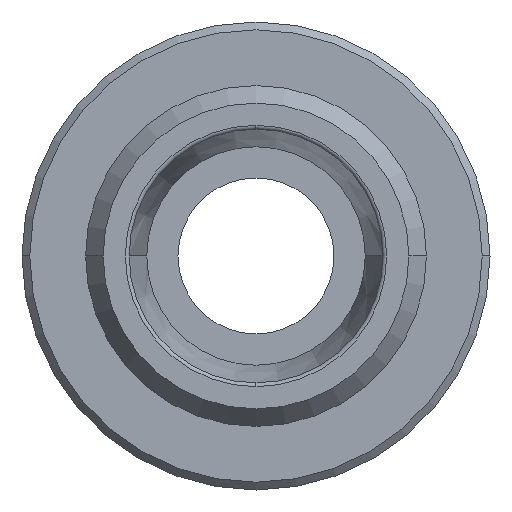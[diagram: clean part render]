
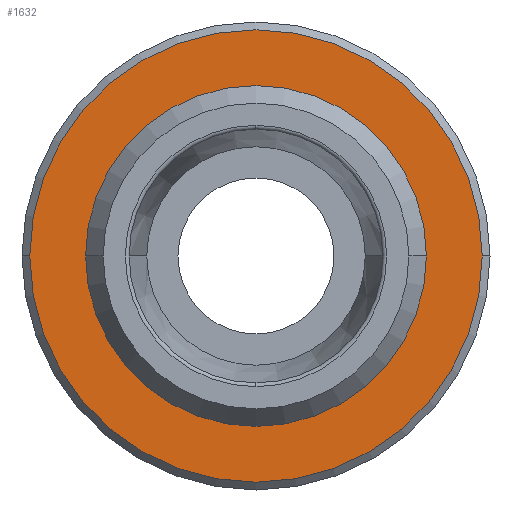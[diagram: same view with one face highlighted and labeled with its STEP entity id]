
A CAD part, left-side view. The second image highlights one B-rep face of the part: STEP entity #1632.
In plain terms, the highlighted planar face has unit normal (-1, 0, 0) as drawn and (0, 0, 1) by its records, which use the part's own axes.
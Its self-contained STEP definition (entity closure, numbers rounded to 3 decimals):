
#141=CARTESIAN_POINT('',(-14.5,0.,35.0));
#142=VERTEX_POINT('',#141);
#151=CARTESIAN_POINT('',(14.5,0.0,35.0));
#152=VERTEX_POINT('',#151);
#153=CARTESIAN_POINT('',(0.0,0.0,35.0));
#154=DIRECTION('',(0.0,0.0,-1.0));
#155=DIRECTION('',(-1.0,0.0,0.0));
#156=AXIS2_PLACEMENT_3D('',#153,#154,#155);
#157=CIRCLE('',#156,14.5);
#158=EDGE_CURVE('',#142,#152,#157,.T.);
#836=CARTESIAN_POINT('',(0.,-10.8,35.0));
#837=VERTEX_POINT('',#836);
#863=CARTESIAN_POINT('',(0.,10.8,35.0));
#864=VERTEX_POINT('',#863);
#872=CARTESIAN_POINT('',(0.,0.,35.0));
#873=DIRECTION('',(0.0,0.0,1.0));
#874=DIRECTION('',(-1.0,0.0,0.0));
#875=AXIS2_PLACEMENT_3D('',#872,#873,#874);
#876=CIRCLE('',#875,10.8);
#877=EDGE_CURVE('',#864,#837,#876,.T.);
#1558=CARTESIAN_POINT('',(10.8,0.,35.));
#1559=VERTEX_POINT('',#1558);
#1560=CARTESIAN_POINT('',(0.,0.,35.0));
#1561=DIRECTION('',(0.0,0.0,1.0));
#1562=DIRECTION('',(-1.0,0.0,0.0));
#1563=AXIS2_PLACEMENT_3D('',#1560,#1561,#1562);
#1564=CIRCLE('',#1563,10.8);
#1565=EDGE_CURVE('',#837,#1559,#1564,.T.);
#1567=CARTESIAN_POINT('',(0.,0.,35.0));
#1568=DIRECTION('',(0.0,0.0,1.0));
#1569=DIRECTION('',(-1.0,0.0,0.0));
#1570=AXIS2_PLACEMENT_3D('',#1567,#1568,#1569);
#1571=CIRCLE('',#1570,10.8);
#1572=EDGE_CURVE('',#1559,#864,#1571,.T.);
#1612=CARTESIAN_POINT('',(1.364,0.,35.0));
#1613=DIRECTION('',(0.0,0.0,1.0));
#1614=DIRECTION('',(1.0,0.0,0.0));
#1615=AXIS2_PLACEMENT_3D('',#1612,#1613,#1614);
#1616=PLANE('',#1615);
#1617=CARTESIAN_POINT('',(0.0,0.0,35.0));
#1618=DIRECTION('',(0.0,0.0,-1.0));
#1619=DIRECTION('',(-1.0,0.0,0.0));
#1620=AXIS2_PLACEMENT_3D('',#1617,#1618,#1619);
#1621=CIRCLE('',#1620,14.5);
#1622=EDGE_CURVE('',#152,#142,#1621,.T.);
#1623=ORIENTED_EDGE('',*,*,#1622,.F.);
#1624=ORIENTED_EDGE('',*,*,#158,.F.);
#1625=EDGE_LOOP('',(#1623,#1624));
#1626=FACE_OUTER_BOUND('',#1625,.T.);
#1627=ORIENTED_EDGE('',*,*,#1572,.F.);
#1628=ORIENTED_EDGE('',*,*,#1565,.F.);
#1629=ORIENTED_EDGE('',*,*,#877,.F.);
#1630=EDGE_LOOP('',(#1627,#1628,#1629));
#1631=FACE_BOUND('',#1630,.T.);
#1632=ADVANCED_FACE('',(#1626,#1631),#1616,.T.);
